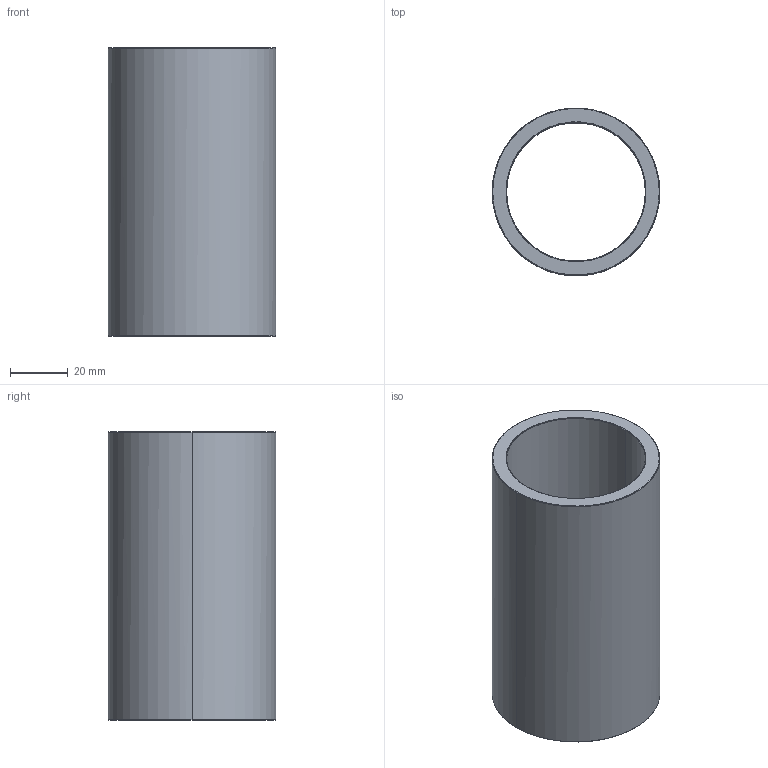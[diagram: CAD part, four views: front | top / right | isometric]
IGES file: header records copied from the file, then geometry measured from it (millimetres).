
Start section: Write IGES format                                    datakit 2008 (c)
Global section: file name: Unknown; native system: DATAKIT Converter; preprocessor: Unknown; author: Unknown; organization: Unknown; date: 950613.180003; units: millimetre
Bounding box: 58 x 57.89 x 100 mm (x, y, z)
Surface area: 34887.9 mm2 (no closed solid volume)
Topology: 0 solids, 0 shells, 14 faces, 56 edges, 56 vertices
Faces by surface type: revolution 12, bspline 2
